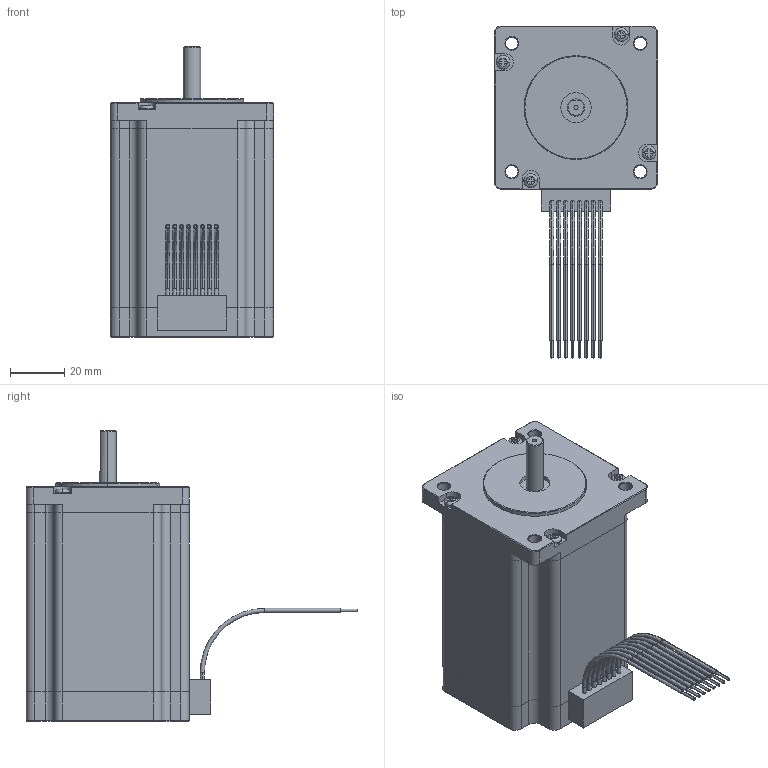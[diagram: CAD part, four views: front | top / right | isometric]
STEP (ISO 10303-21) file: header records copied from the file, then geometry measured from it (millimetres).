
FILE_DESCRIPTION (( 'STEP AP214' ), '1' );
FILE_NAME ('24Y504S-LW8.STEP', '2010-06-11T18:06:00', ( 'Tim Raines' ), ( 'Anaheim Automation' ), 'SwSTEP 2.0', 'SolidWorks 2010', '' );
FILE_SCHEMA (( 'AUTOMOTIVE_DESIGN' ));
Length unit declared in the file: inch
Products named in the file (1): 24Y504S-LW8
Bounding box: 59.94 x 121.84 x 106.58 mm (x, y, z)
Volume: 279733.5 mm3; surface area: 31374.1 mm2
Topology: 1 solids, 1 shells, 385 faces, 966 edges, 608 vertices
Faces by surface type: plane 175, cylinder 131, cone 55, torus 24
Entity records: 16616 total; most frequent: CARTESIAN_POINT 2206, DIRECTION 2039, ORIENTED_EDGE 1916, EDGE_CURVE 958, AXIS2_PLACEMENT_3D 753, VERTEX_POINT 608, LINE 533, VECTOR 533
